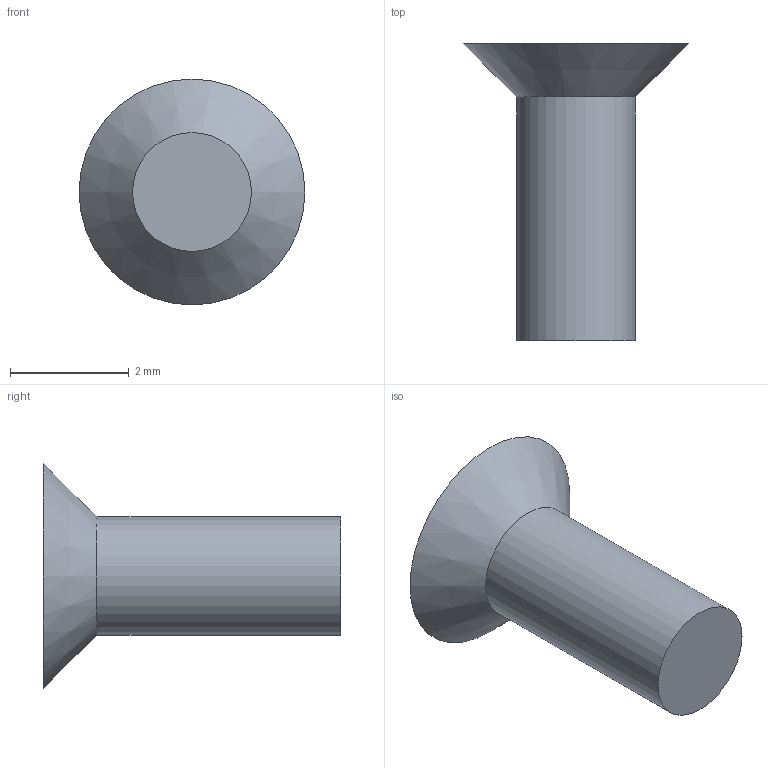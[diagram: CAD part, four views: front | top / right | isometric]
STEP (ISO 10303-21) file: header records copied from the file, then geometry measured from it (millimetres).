
FILE_DESCRIPTION(('Open CASCADE Model'),'2;1');
FILE_NAME('Open CASCADE Shape Model','2026-11-23T18:10:07',('Author'),( 'Open CASCADE'),'Open CASCADE STEP processor 8.0','build123d', 'Unknown');
FILE_SCHEMA(('AUTOMOTIVE_DESIGN { 1 0 10303 214 1 1 1 1 }'));
Length unit declared in the file: millimetre
Products named in the file (2): =>[0:1:1:2]; SOLID
Assembly tree (1 placements, depth 2):
  =>[0:1:1:2]
    SOLID
Bounding box: 3.8 x 5 x 3.8 mm (x, y, z)
Volume: 19 mm3; surface area: 51.8 mm2
Topology: 1 solids, 1 shells, 4 faces, 5 edges, 3 vertices
Faces by surface type: plane 2, cone 1, cylinder 1
Full cylindrical faces by diameter (mm): 2 x1
Entity records: 176 total; most frequent: DIRECTION 29, CARTESIAN_POINT 25, ORIENTED_EDGE 10, PCURVE 10, DEFINITIONAL_REPRESENTATION 10, AXIS2_PLACEMENT_3D 9, LINE 9, VECTOR 9
